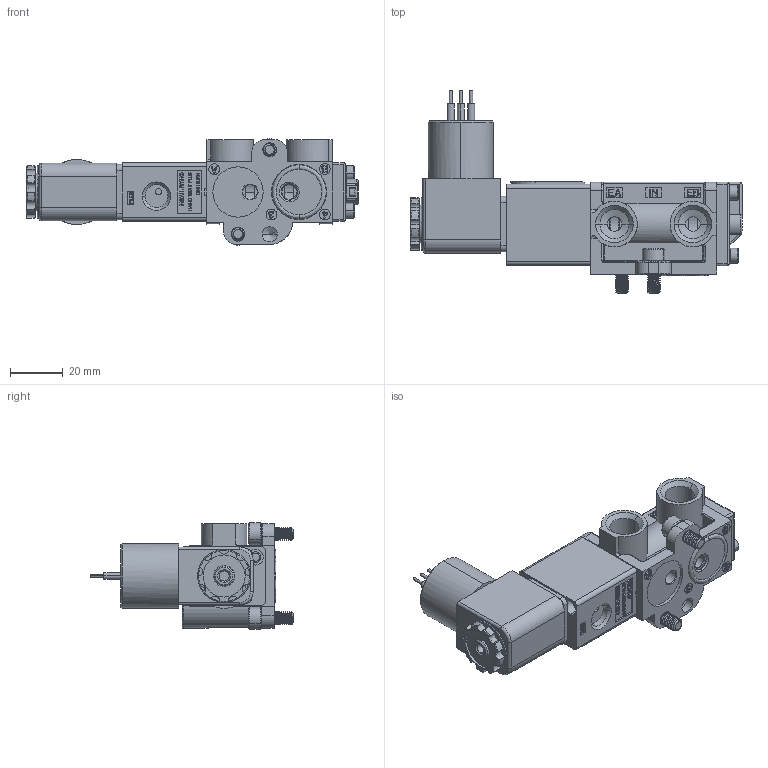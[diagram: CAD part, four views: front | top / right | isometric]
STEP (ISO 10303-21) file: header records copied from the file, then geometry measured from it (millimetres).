
FILE_DESCRIPTION (( 'STEP AP214' ), '1' );
FILE_NAME ('TVC5-X411-4N-XXX.STEP', '2025-05-08T14:36:39', ( '' ), ( '' ), 'SwSTEP 2.0', 'SolidWorks 2023', '' );
FILE_SCHEMA (( 'AUTOMOTIVE_DESIGN' ));
Length unit declared in the file: inch
Products named in the file (1): TVC5-X411-4N-XXX
Bounding box: 125.7 x 76.66 x 40.5 mm (x, y, z)
Volume: 77910.6 mm3; surface area: 39919.4 mm2
Topology: 12 solids, 12 shells, 2157 faces, 5657 edges, 3688 vertices
Faces by surface type: plane 1257, cylinder 507, bspline 263, cone 118, torus 12
Entity records: 86095 total; most frequent: CARTESIAN_POINT 34998, ORIENTED_EDGE 11298, DIRECTION 9437, EDGE_CURVE 5649, LINE 3819, VECTOR 3819, VERTEX_POINT 3688, AXIS2_PLACEMENT_3D 2809
